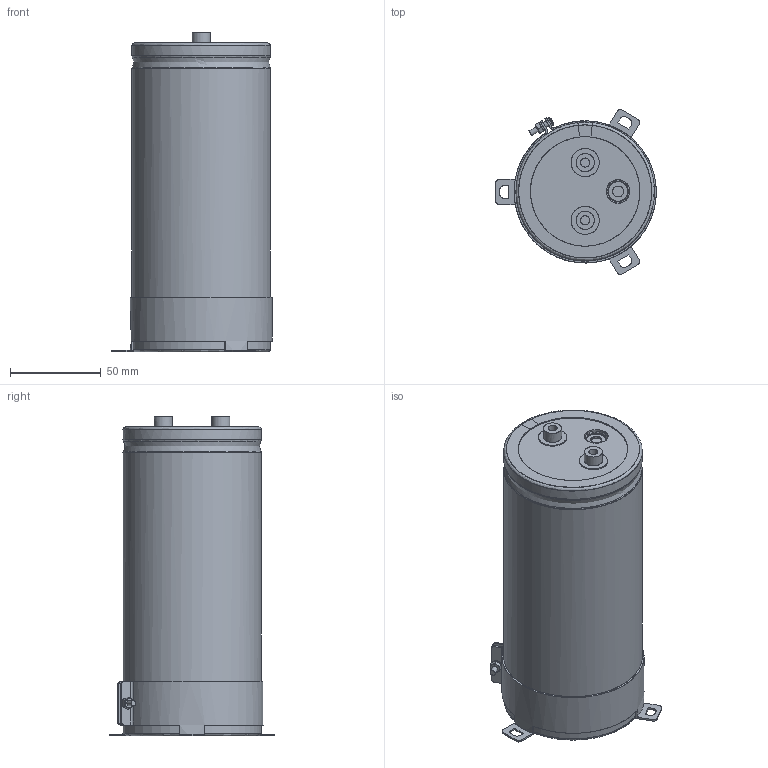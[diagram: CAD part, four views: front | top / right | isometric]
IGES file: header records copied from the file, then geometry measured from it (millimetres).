
Start section: JAMA-IS VERSION  1.0
Bounding box: 88.3 x 90.75 x 176 mm (x, y, z)
Surface area: 152156 mm2 (no closed solid volume)
Topology: 0 solids, 0 shells, 259 faces, 4448 edges, 4417 vertices
Faces by surface type: bspline 259
